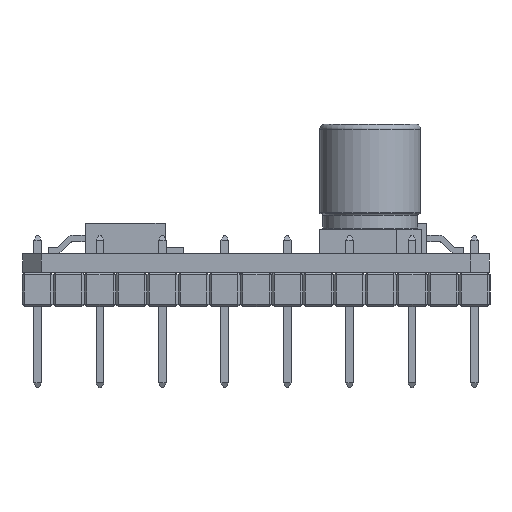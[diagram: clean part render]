
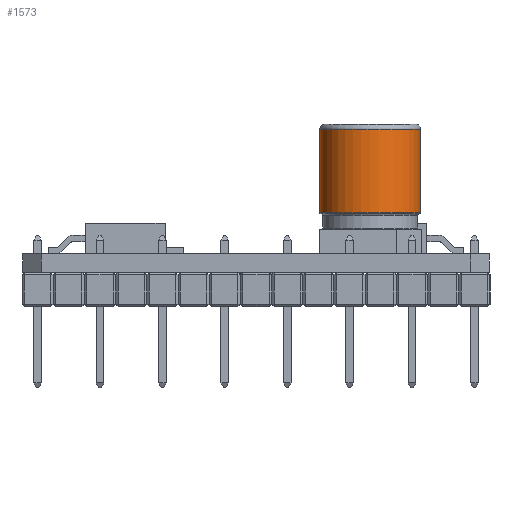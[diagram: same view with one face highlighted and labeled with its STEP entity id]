
A CAD part, left-side view. The second image highlights one B-rep face of the part: STEP entity #1573.
In plain terms, the highlighted cylindrical face has radius 4.1 mm (diameter 8.2 mm), a full revolution.
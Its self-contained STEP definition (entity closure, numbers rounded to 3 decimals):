
#60=CYLINDRICAL_SURFACE('',#24017,4.1);
#1573=ADVANCED_FACE('',(#4572,#4573),#60,.T.);
#4354=CIRCLE('',#24015,4.1);
#4355=CIRCLE('',#24016,4.1);
#4572=FACE_BOUND('',#4888,.T.);
#4573=FACE_BOUND('',#4889,.T.);
#4888=EDGE_LOOP('',(#7008));
#4889=EDGE_LOOP('',(#7009));
#7008=ORIENTED_EDGE('',*,*,#15018,.T.);
#7009=ORIENTED_EDGE('',*,*,#15019,.T.);
#13118=VERTEX_POINT('',#32682);
#13119=VERTEX_POINT('',#32684);
#15018=EDGE_CURVE('',#13118,#13118,#4354,.T.);
#15019=EDGE_CURVE('',#13119,#13119,#4355,.T.);
#24015=AXIS2_PLACEMENT_3D('',#32681,#26174,#26175);
#24016=AXIS2_PLACEMENT_3D('',#32683,#26176,#26177);
#24017=AXIS2_PLACEMENT_3D('',#32685,#26178,#26179);
#26174=DIRECTION('',(0.,0.,-1.));
#26175=DIRECTION('',(-1.,0.,0.));
#26176=DIRECTION('',(0.,0.,1.));
#26177=DIRECTION('',(1.,0.,0.));
#26178=DIRECTION('',(0.,0.,1.));
#26179=DIRECTION('',(-1.,0.,0.));
#32681=CARTESIAN_POINT('',(-18.1,-9.3,10.15));
#32682=CARTESIAN_POINT('',(-22.2,-9.3,10.15));
#32683=CARTESIAN_POINT('',(-18.1,-9.3,3.35));
#32684=CARTESIAN_POINT('',(-14.,-9.3,3.35));
#32685=CARTESIAN_POINT('',(-18.1,-9.3,3.25));
